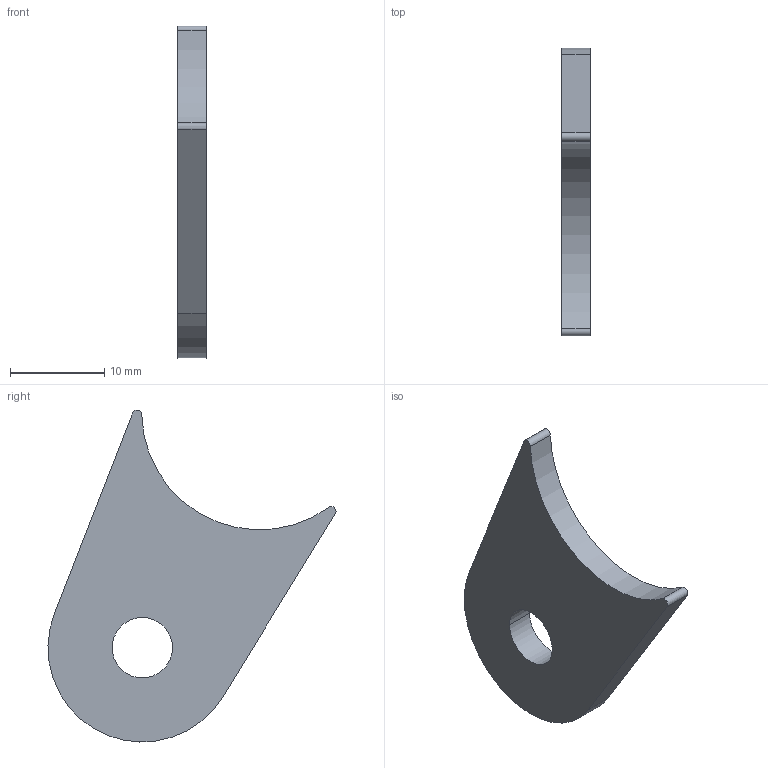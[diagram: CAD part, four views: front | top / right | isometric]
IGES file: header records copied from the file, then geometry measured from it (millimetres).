
Start section: START RECORD GO HERE.
Global section: file name: SU_06004(Chape 6mm).igs; native system: IBM CATIA IGES - CATIA Version 5 Release 19 ; preprocessor: CATIA Version 5 Release 19 ; author: Calixthe; organization: MACHINEDECALOU; date: 20200115.210630; units: millimetre
Bounding box: 3 x 30.54 x 35.2 mm (x, y, z)
Surface area: 1391 mm2 (no closed solid volume)
Topology: 0 solids, 0 shells, 10 faces, 48 edges, 52 vertices
Faces by surface type: revolution 6, plane 4
